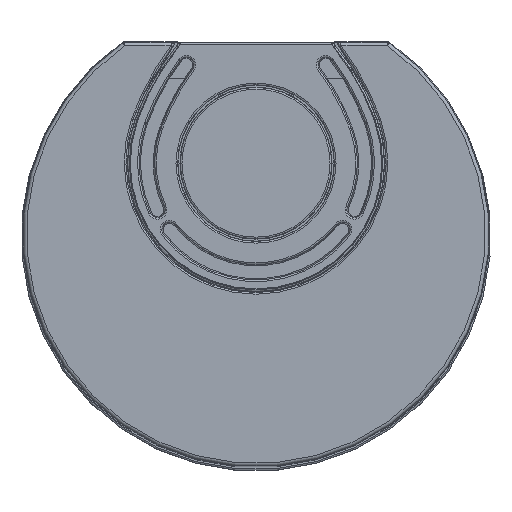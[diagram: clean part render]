
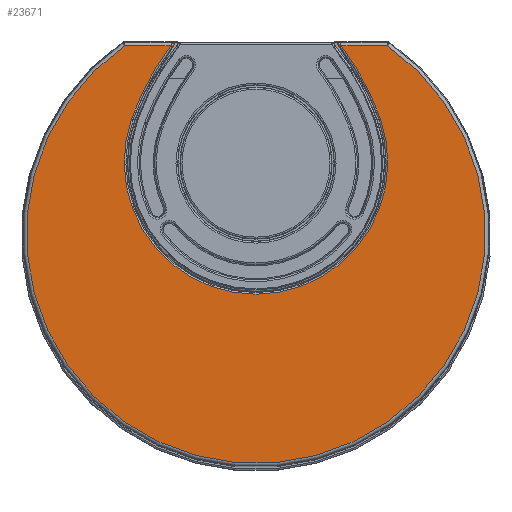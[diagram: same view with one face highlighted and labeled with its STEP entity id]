
A CAD part, top view. The second image highlights one B-rep face of the part: STEP entity #23671.
In plain terms, the highlighted planar face has unit normal (0, 0, 1).
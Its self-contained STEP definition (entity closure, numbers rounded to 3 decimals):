
#1676=LINE('',#44692,#2928);
#1677=LINE('',#44700,#2929);
#2928=VECTOR('',#29708,1000.);
#2929=VECTOR('',#29715,1000.);
#3986=PLANE('',#26397);
#4550=CIRCLE('',#26398,152.766);
#4551=CIRCLE('',#26399,302.766);
#4552=CIRCLE('',#26400,0.09);
#4553=CIRCLE('',#26401,266.055);
#4554=CIRCLE('',#26402,0.09);
#4555=CIRCLE('',#26403,302.766);
#8369=ORIENTED_EDGE('',*,*,#13981,.T.);
#8370=ORIENTED_EDGE('',*,*,#13982,.T.);
#8371=ORIENTED_EDGE('',*,*,#13983,.T.);
#8372=ORIENTED_EDGE('',*,*,#13984,.T.);
#8373=ORIENTED_EDGE('',*,*,#13985,.T.);
#8374=ORIENTED_EDGE('',*,*,#13986,.T.);
#8375=ORIENTED_EDGE('',*,*,#13987,.T.);
#8376=ORIENTED_EDGE('',*,*,#13988,.T.);
#13981=EDGE_CURVE('',#17027,#17028,#4550,.F.);
#13982=EDGE_CURVE('',#17028,#17029,#4551,.F.);
#13983=EDGE_CURVE('',#17029,#17030,#1676,.F.);
#13984=EDGE_CURVE('',#17030,#17031,#4552,.T.);
#13985=EDGE_CURVE('',#17031,#17032,#4553,.T.);
#13986=EDGE_CURVE('',#17032,#17033,#4554,.T.);
#13987=EDGE_CURVE('',#17033,#17034,#1677,.F.);
#13988=EDGE_CURVE('',#17034,#17027,#4555,.F.);
#17027=VERTEX_POINT('',#44688);
#17028=VERTEX_POINT('',#44689);
#17029=VERTEX_POINT('',#44691);
#17030=VERTEX_POINT('',#44693);
#17031=VERTEX_POINT('',#44695);
#17032=VERTEX_POINT('',#44697);
#17033=VERTEX_POINT('',#44699);
#17034=VERTEX_POINT('',#44701);
#20438=EDGE_LOOP('',(#8369,#8370,#8371,#8372,#8373,#8374,#8375,#8376));
#22010=FACE_BOUND('',#20438,.T.);
#23671=ADVANCED_FACE('',(#22010),#3986,.T.);
#26397=AXIS2_PLACEMENT_3D('',#44686,#29702,#29703);
#26398=AXIS2_PLACEMENT_3D('',#44687,#29704,#29705);
#26399=AXIS2_PLACEMENT_3D('',#44690,#29706,#29707);
#26400=AXIS2_PLACEMENT_3D('',#44694,#29709,#29710);
#26401=AXIS2_PLACEMENT_3D('',#44696,#29711,#29712);
#26402=AXIS2_PLACEMENT_3D('',#44698,#29713,#29714);
#26403=AXIS2_PLACEMENT_3D('',#44702,#29716,#29717);
#29702=DIRECTION('',(0.,0.,1.));
#29703=DIRECTION('',(1.,0.,0.));
#29704=DIRECTION('',(0.,0.,1.));
#29705=DIRECTION('',(1.,0.,0.));
#29706=DIRECTION('',(0.,0.,1.));
#29707=DIRECTION('',(1.,0.,0.));
#29708=DIRECTION('',(1.,0.,0.));
#29709=DIRECTION('',(0.,0.,1.));
#29710=DIRECTION('',(1.,0.,0.));
#29711=DIRECTION('',(0.,0.,1.));
#29712=DIRECTION('',(1.,0.,0.));
#29713=DIRECTION('',(0.,0.,1.));
#29714=DIRECTION('',(1.,0.,0.));
#29715=DIRECTION('',(1.,0.,0.));
#29716=DIRECTION('',(0.,0.,1.));
#29717=DIRECTION('',(1.,0.,0.));
#44686=CARTESIAN_POINT('',(152.409,-103.336,1260.));
#44687=CARTESIAN_POINT('',(0.,-238.5,1260.));
#44688=CARTESIAN_POINT('',(144.356,-188.513,1260.));
#44689=CARTESIAN_POINT('',(-144.356,-188.513,1260.));
#44690=CARTESIAN_POINT('',(141.743,-287.582,1260.));
#44691=CARTESIAN_POINT('',(-98.439,-103.245,1260.));
#44692=CARTESIAN_POINT('',(-152.409,-103.245,1260.));
#44693=CARTESIAN_POINT('',(-152.409,-103.245,1260.));
#44694=CARTESIAN_POINT('',(-152.409,-103.336,1260.));
#44695=CARTESIAN_POINT('',(-152.461,-103.262,1260.));
#44696=CARTESIAN_POINT('',(0.,-321.3,1260.));
#44697=CARTESIAN_POINT('',(152.461,-103.262,1260.));
#44698=CARTESIAN_POINT('',(152.409,-103.336,1260.));
#44699=CARTESIAN_POINT('',(152.41,-103.245,1260.));
#44700=CARTESIAN_POINT('',(92.866,-103.245,1260.));
#44701=CARTESIAN_POINT('',(98.439,-103.245,1260.));
#44702=CARTESIAN_POINT('',(-141.743,-287.582,1260.));
